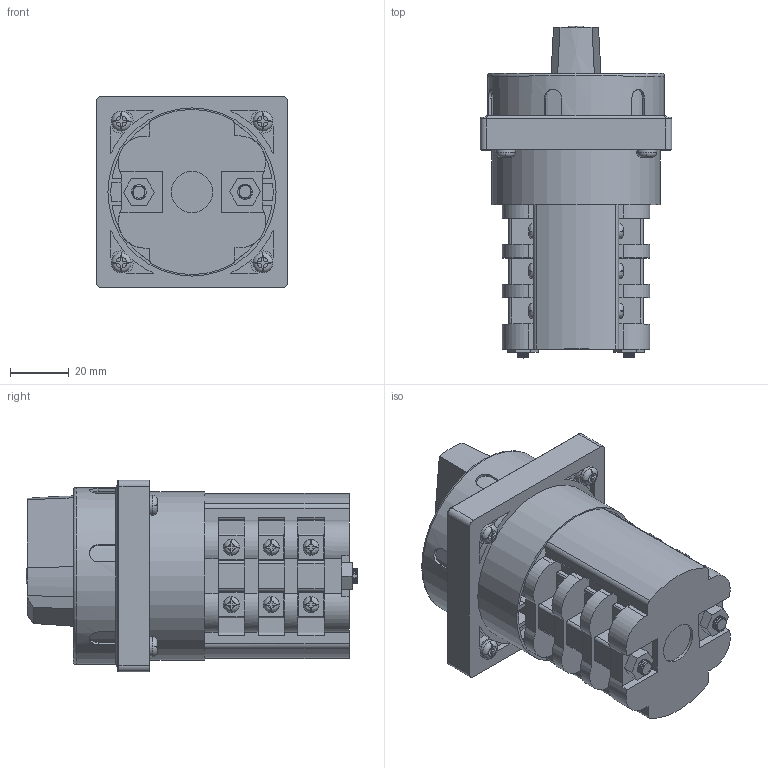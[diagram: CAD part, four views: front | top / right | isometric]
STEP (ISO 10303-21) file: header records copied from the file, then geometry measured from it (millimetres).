
FILE_DESCRIPTION(/* description */ (''),/* implementation_level */ '2;1');
FILE_NAME(/* name */ '4G16,25_S6_3_korpusy.stp',/* time_stamp */ '2021-07-21T09:28:09+02:00',/* author */ (''),/* organization */ (''),/* preprocessor_version */ 'ST-DEVELOPER v18.1',/* originating_system */ 'SIEMENS PLM Software NX 1965',/* authorisation */ '');
FILE_SCHEMA (('AUTOMOTIVE_DESIGN { 1 0 10303 214 3 1 1 1 }'));
Products named in the file (1): 4G16,25_S6_3_korpusy_stp
Bounding box: 65 x 112.6 x 65 mm (x, y, z)
Volume: 213436.6 mm3; surface area: 49924.7 mm2
Topology: 2 solids, 11 shells, 1059 faces, 2956 edges, 1937 vertices
Faces by surface type: plane 591, cylinder 302, bspline 115, cone 30, torus 15, extrusion 6
Full cylindrical faces by diameter (mm): 2.9 x7, 3.1 x1, 4.3 x4, 5 x2, 5.4 x13, 5.6 x1, 6 x1, 6.7 x4, 7.2 x4, 8 x1, 14 x1, 55.8 x1, 57 x1, 58 x1, 60 x1
Entity records: 99763 total; most frequent: CARTESIAN_POINT 73975, ORIENTED_EDGE 5644, DIRECTION 4763, EDGE_CURVE 2822, VERTEX_POINT 1874, AXIS2_PLACEMENT_3D 1694, VECTOR 1375, LINE 1369
